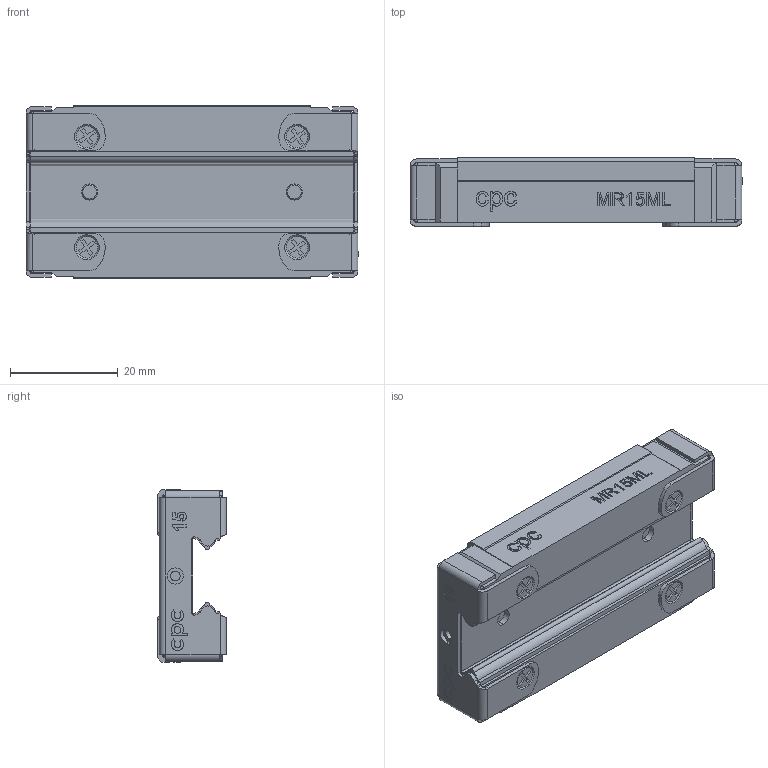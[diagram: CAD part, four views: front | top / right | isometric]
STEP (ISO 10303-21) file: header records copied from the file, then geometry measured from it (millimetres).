
FILE_DESCRIPTION (( 'STEP AP203' ), '1' );
FILE_NAME ('15ML-EE_EZ.STEP', '2009-08-12T01:50:43', ( 'cpc' ), ( '' ), 'SwSTEP 2.0', 'SolidWorks 2007', '' );
FILE_SCHEMA (( 'CONFIG_CONTROL_DESIGN' ));
Length unit declared in the file: millimetre
Products named in the file (5): 15ML-EE_EZ; 15ML-SS_ZZ-block(x1)_預設; MR15M加強片-060923 _預設; 埋頭螺絲M3-2_預設; M2x0.4-screw-2_預設
Assembly tree (9 placements, depth 2):
  15ML-EE_EZ
    埋頭螺絲M3-2_預設  x2
    M2x0.4-screw-2_預設  x4
    MR15M加強片-060923 _預設  x2
    15ML-SS_ZZ-block(x1)_預設
Bounding box: 61.6 x 12.8 x 32 mm (x, y, z)
Volume: 18606.8 mm3; surface area: 11186.1 mm2
Topology: 9 solids, 9 shells, 1050 faces, 2772 edges, 1806 vertices
Faces by surface type: plane 509, bspline 350, cylinder 135, cone 56
Entity records: 36673 total; most frequent: CARTESIAN_POINT 18980, ORIENTED_EDGE 3992, DIRECTION 2654, EDGE_CURVE 1996, VERTEX_POINT 1310, VECTOR 1262, LINE 1262, EDGE_LOOP 822
